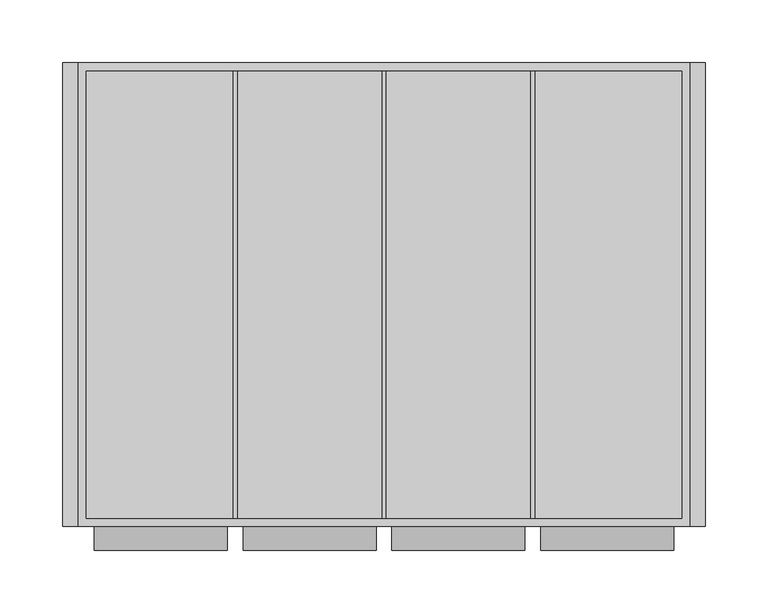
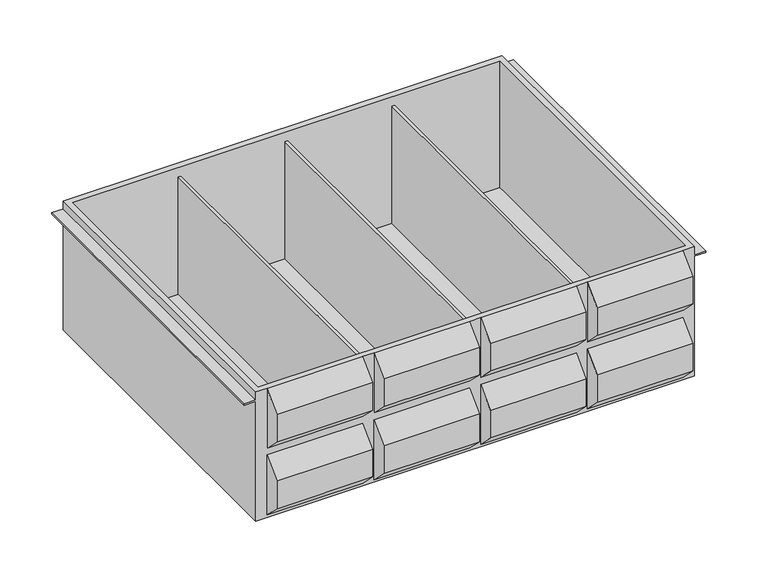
"""IFC4 building model written with IfcOpenShell, lengths in millimetres: furniture geometry, HermanMiller_CoStruc_CO565_Cassette Assembly : 6H x 15D x 20W."""

from ifc_helpers import new_model, si_unit, origin, place, context, project, spatial, faceted_brep, source, transform, mapped, element, save


def furniture_6299e03b(model_context):
    return source(origin(), model_context, "Body", "Brep", [
        faceted_brep([(-238.125, -176.2125, 1308.1), (-250.825, -176.2125, 1308.1), (-250.825, -176.2125, 1298.5877), (-263.525, -176.2125, 1298.5877), (-263.525, -176.2125, 1297.0002), (-250.825, -176.2125, 1297.0002), (-250.825, -176.2125, 1155.7), (238.125, -176.2125, 1155.7), (238.125, -176.2125, 1297.0002), (250.825, -176.2125, 1297.0002), (250.825, -176.2125, 1298.5877), (238.125, -176.2125, 1298.5877), (238.125, -176.2125, 1308.1), (225.425, -176.2125, 1308.1), (225.425, -176.2125, 1237.5117237), (119.0625, -176.2125, 1237.5117237), (119.0625, -176.2125, 1308.1), (106.3625, -176.2125, 1308.1), (106.3625, -176.2125, 1237.5117237), (0.0, -176.2125, 1237.5117237), (0.0, -176.2125, 1308.1), (-12.7, -176.2125, 1308.1), (-12.7, -176.2125, 1237.5117237), (-119.0625, -176.2125, 1237.5117237), (-119.0625, -176.2125, 1308.1), (-131.7625, -176.2125, 1308.1), (-131.7625, -176.2125, 1237.5117237), (-238.125, -176.2125, 1237.5117237), (-131.7625, -176.2125, 1229.3144481), (-131.7625, -176.2125, 1158.7261719), (-238.125, -176.2125, 1158.7261719), (-238.125, -176.2125, 1229.3144481), (-119.0625, -176.2125, 1158.7261719), (-119.0625, -176.2125, 1229.3144481), (-12.7, -176.2125, 1229.3144481), (-12.7, -176.2125, 1158.7261719), (106.3625, -176.2125, 1229.3144481), (106.3625, -176.2125, 1158.7261719), (0.0, -176.2125, 1158.7261719), (0.0, -176.2125, 1229.3144481), (119.0625, -176.2125, 1158.7261719), (119.0625, -176.2125, 1229.3144481), (225.425, -176.2125, 1229.3144481), (225.425, -176.2125, 1158.7261719), (-250.825, 195.2625, 1308.1), (238.125, 195.2625, 1308.1), (238.125, 195.2625, 1298.5877), (250.825, 195.2625, 1298.5877), (250.825, 195.2625, 1297.0002), (238.125, 195.2625, 1297.0002), (238.125, 195.2625, 1155.7), (-250.825, 195.2625, 1155.7), (-250.825, 195.2625, 1297.0002), (-263.525, 195.2625, 1297.0002), (-263.525, 195.2625, 1298.5877), (-250.825, 195.2625, 1298.5877), (231.775, -169.8625, 1308.1), (-244.475, -169.8625, 1308.1), (-244.475, 188.2775, 1308.1), (231.775, 188.2775, 1308.1), (-131.7625, -195.2625, 1177.7761719), (-131.7625, -195.2625, 1210.2644481), (-131.7625, -195.2625, 1289.05), (-131.7625, -195.2625, 1256.5617237), (-238.125, -195.2625, 1177.7761719), (-238.125, -195.2625, 1210.2644481), (-238.125, -195.2625, 1256.5617237), (-238.125, -195.2625, 1289.05), (231.775, -169.8625, 1158.7261719), (231.775, 188.2775, 1158.7261719), (114.3, 188.2775, 1158.7261719), (114.3, -169.8625, 1158.7261719), (-244.475, 188.2775, 1158.7261719), (-244.475, -169.8625, 1158.7261719), (-127.0, -169.8625, 1158.7261719), (-127.0, 188.2775, 1158.7261719), (-4.7625, -169.8625, 1158.7261719), (111.125, -169.8625, 1158.7261719), (111.125, 188.2775, 1158.7261719), (-4.7625, 188.2775, 1158.7261719), (-123.825, -169.8625, 1158.7261719), (-7.9375, -169.8625, 1158.7261719), (-7.9375, 188.2775, 1158.7261719), (-123.825, 188.2775, 1158.7261719), (114.3, -169.8625, 1297.0002), (111.125, -169.8625, 1297.0002), (-4.7625, -169.8625, 1297.0002), (-7.9375, -169.8625, 1297.0002), (-123.825, -169.8625, 1297.0002), (-127.0, -169.8625, 1297.0002), (-127.0, 188.2775, 1297.0002), (-123.825, 188.2775, 1297.0002), (-7.9375, 188.2775, 1297.0002), (-4.7625, 188.2775, 1297.0002), (111.125, 188.2775, 1297.0002), (114.3, 188.2775, 1297.0002), (-119.0625, -195.2625, 1177.7761719), (-119.0625, -195.2625, 1210.2644481), (-119.0625, -195.2625, 1256.5617237), (-119.0625, -195.2625, 1289.05), (-12.7, -195.2625, 1177.7761719), (-12.7, -195.2625, 1210.2644481), (-12.7, -195.2625, 1289.05), (-12.7, -195.2625, 1256.5617237), (106.3625, -195.2625, 1177.7761719), (106.3625, -195.2625, 1210.2644481), (106.3625, -195.2625, 1289.05), (106.3625, -195.2625, 1256.5617237), (0.0, -195.2625, 1177.7761719), (0.0, -195.2625, 1210.2644481), (0.0, -195.2625, 1256.5617237), (0.0, -195.2625, 1289.05), (119.0625, -195.2625, 1177.7761719), (119.0625, -195.2625, 1210.2644481), (119.0625, -195.2625, 1256.5617237), (119.0625, -195.2625, 1289.05), (225.425, -195.2625, 1177.7761719), (225.425, -195.2625, 1210.2644481), (225.425, -195.2625, 1289.05), (225.425, -195.2625, 1256.5617237)], [[[0, 1, 2, 3, 4, 5, 6, 7, 8, 9, 10, 11, 12, 13, 14, 15, 16, 17, 18, 19, 20, 21, 22, 23, 24, 25, 26, 27], [28, 29, 30, 31], [32, 33, 34, 35], [36, 37, 38, 39], [40, 41, 42, 43]], [[44, 45, 46, 47, 48, 49, 50, 51, 52, 53, 54, 55]], [[51, 50, 7, 6]], [[7, 50, 49, 8]], [[45, 12, 11, 46]], [[45, 44, 1, 0, 25, 24, 21, 20, 17, 16, 13, 12], [56, 57, 58, 59]], [[51, 6, 5, 52]], [[1, 44, 55, 2]], [[60, 29, 28, 61]], [[25, 62, 63, 26]], [[64, 65, 31, 30]], [[27, 66, 67, 0]], [[29, 60, 64, 30]], [[62, 25, 0, 67]], [[63, 62, 67, 66]], [[26, 63, 66, 27]], [[61, 28, 31, 65]], [[60, 61, 65, 64]], [[68, 69, 70, 71]], [[72, 73, 74, 75]], [[76, 77, 78, 79]], [[80, 81, 82, 83]], [[56, 68, 71, 84, 85, 77, 76, 86, 87, 81, 80, 88, 89, 74, 73, 57]], [[69, 68, 56, 59]], [[69, 59, 58, 72, 75, 90, 91, 83, 82, 92, 93, 79, 78, 94, 95, 70]], [[73, 72, 58, 57]], [[96, 97, 33, 32]], [[23, 98, 99, 24]], [[100, 35, 34, 101]], [[21, 102, 103, 22]], [[97, 96, 100, 101]], [[33, 97, 101, 34]], [[98, 23, 22, 103]], [[99, 98, 103, 102]], [[24, 99, 102, 21]], [[96, 32, 35, 100]], [[104, 37, 36, 105]], [[17, 106, 107, 18]], [[108, 109, 39, 38]], [[19, 110, 111, 20]], [[37, 104, 108, 38]], [[106, 17, 20, 111]], [[107, 106, 111, 110]], [[18, 107, 110, 19]], [[105, 36, 39, 109]], [[104, 105, 109, 108]], [[112, 113, 41, 40]], [[15, 114, 115, 16]], [[116, 43, 42, 117]], [[13, 118, 119, 14]], [[113, 112, 116, 117]], [[41, 113, 117, 42]], [[114, 15, 14, 119]], [[115, 114, 119, 118]], [[16, 115, 118, 13]], [[112, 40, 43, 116]], [[54, 53, 4, 3]], [[55, 54, 3, 2]], [[53, 52, 5, 4]], [[49, 48, 9, 8]], [[47, 46, 11, 10]], [[48, 47, 10, 9]], [[88, 91, 90, 89]], [[84, 95, 94, 85]], [[86, 93, 92, 87]], [[91, 88, 80, 83]], [[89, 90, 75, 74]], [[95, 84, 71, 70]], [[85, 94, 78, 77]], [[93, 86, 76, 79]], [[87, 92, 82, 81]]]),
    ])


if __name__ == "__main__":
    model = new_model("IFC4")
    model_context = context("Model", 3, world=origin())
    ifc_project = project(units=[si_unit("LENGTHUNIT", "METRE", prefix="MILLI")], contexts=[model_context])
    site = spatial("IfcSite", under=ifc_project)
    building = spatial("IfcBuilding", under=site)
    placement = place(None, origin())
    furniture_shape = furniture_6299e03b(model_context)
    element("IfcFurniture", 1, ObjectType="HermanMiller_CoStruc_CO565_Cassette Assembly : 6H x 15D x 20W", at=placement, inside=building, context=model_context, shape_type="MappedRepresentation", body=[
        mapped(furniture_shape, transform((0.0, 0.0, 0.0), x_axis=(1.0, 0.0, 0.0), y_axis=(0.0, 1.0, 0.0), z_axis=(0.0, 0.0, 1.0))),
    ])
    save(model, "model.ifc")
